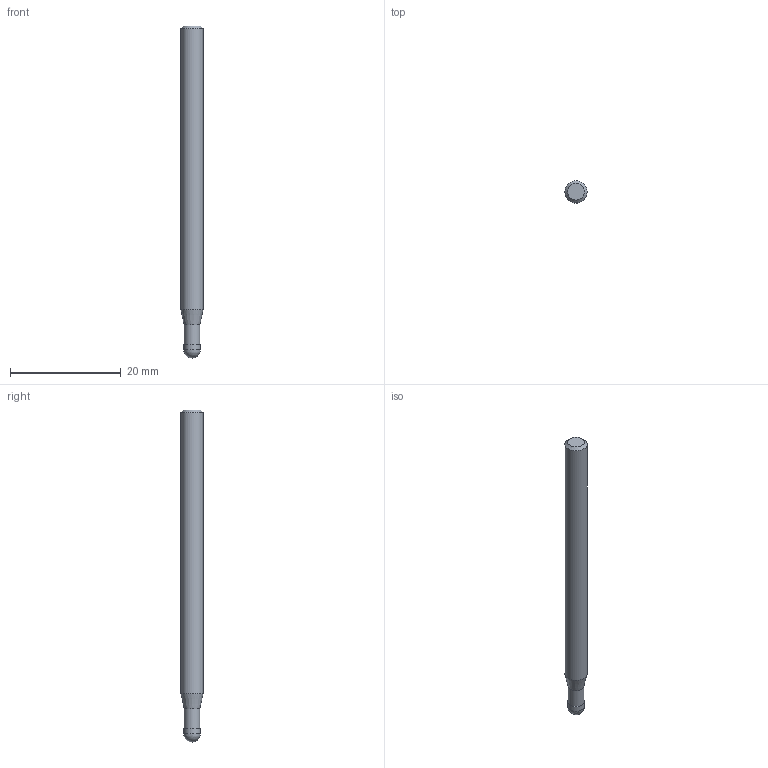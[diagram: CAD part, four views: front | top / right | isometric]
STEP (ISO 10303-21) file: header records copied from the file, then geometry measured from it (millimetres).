
FILE_DESCRIPTION((''),'2;1');
FILE_NAME('C:\Users\nsx150\AppData\Local\Temp\Mastercam 2021\3SYKECWX22\TEMP.step','2021-04-22T10:04:47',(''),(''),'STEP Write','Mastercam 2021 ... CNC Software, Inc.','');
FILE_SCHEMA(('AUTOMOTIVE_DESIGN'));
Length unit declared in the file: millimetre
Products named in the file (1): None
Bounding box: 4 x 4 x 60 mm (x, y, z)
Volume: 704.8 mm3; surface area: 751.3 mm2
Topology: 2 solids, 2 shells, 9 faces, 14 edges, 8 vertices
Faces by surface type: plane 3, cylinder 3, cone 2, sphere 1
Full cylindrical faces by diameter (mm): 2.85 x1, 3 x1, 4 x1
Entity records: 211 total; most frequent: DIRECTION 36, CARTESIAN_POINT 25, AXIS2_PLACEMENT_3D 18, ORIENTED_EDGE 14, EDGE_LOOP 14, STYLED_ITEM 12, ADVANCED_FACE 9, FACE_BOUND 8
